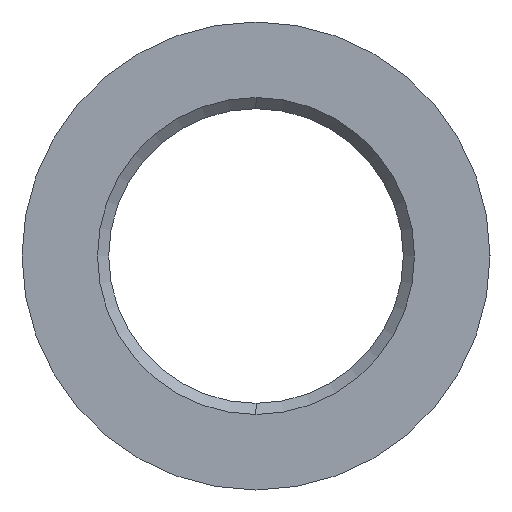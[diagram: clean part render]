
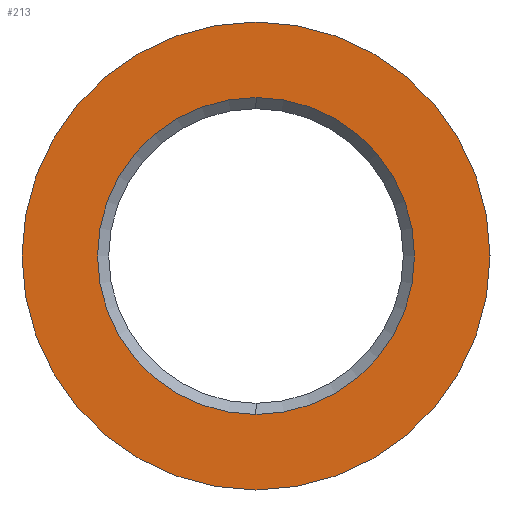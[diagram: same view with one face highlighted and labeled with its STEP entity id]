
A CAD part, left-side view. The second image highlights one B-rep face of the part: STEP entity #213.
In plain terms, the highlighted planar face has unit normal (-1, 0, 0).
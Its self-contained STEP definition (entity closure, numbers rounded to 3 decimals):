
#7 = VERTEX_POINT ( 'NONE', #470 ) ;
#153 = ORIENTED_EDGE ( 'NONE', *, *, #282, .T. ) ;
#154 = ORIENTED_EDGE ( 'NONE', *, *, #155, .T. ) ;
#155 = EDGE_CURVE ( 'NONE', #164, #7, #736, .T. ) ;
#156 = EDGE_LOOP ( 'NONE', ( #215, #216 ) ) ;
#164 = VERTEX_POINT ( 'NONE', #1054 ) ;
#212 = EDGE_CURVE ( 'NONE', #295, #239, #1095, .T. ) ;
#213 = ADVANCED_FACE ( 'NONE', ( #1090, #1089 ), #1088, .F. ) ;
#214 = EDGE_LOOP ( 'NONE', ( #153, #154 ) ) ;
#215 = ORIENTED_EDGE ( 'NONE', *, *, #212, .F. ) ;
#216 = ORIENTED_EDGE ( 'NONE', *, *, #241, .F. ) ;
#239 = VERTEX_POINT ( 'NONE', #1031 ) ;
#241 = EDGE_CURVE ( 'NONE', #239, #295, #1029, .T. ) ;
#282 = EDGE_CURVE ( 'NONE', #7, #164, #959, .T. ) ;
#295 = VERTEX_POINT ( 'NONE', #1188 ) ;
#470 = CARTESIAN_POINT ( 'NONE',  ( 0., 0., 4.25 ) ) ;
#736 = CIRCLE ( 'NONE', #1138, 4.25 ) ;
#950 = DIRECTION ( 'NONE',  ( 0., 0., -1. ) ) ;
#951 = DIRECTION ( 'NONE',  ( 1., 0., 0. ) ) ;
#952 = CARTESIAN_POINT ( 'NONE',  ( 0., 0., 0. ) ) ;
#953 = AXIS2_PLACEMENT_3D ( 'NONE', #952, #951, #950 ) ;
#959 = CIRCLE ( 'NONE', #953, 4.25 ) ;
#1025 = DIRECTION ( 'NONE',  ( 0., 0., -1. ) ) ;
#1026 = DIRECTION ( 'NONE',  ( 1., 0., 0. ) ) ;
#1027 = CARTESIAN_POINT ( 'NONE',  ( 0., 0., 0. ) ) ;
#1028 = AXIS2_PLACEMENT_3D ( 'NONE', #1027, #1026, #1025 ) ;
#1029 = CIRCLE ( 'NONE', #1028, 6.275 ) ;
#1031 = CARTESIAN_POINT ( 'NONE',  ( 0., 0., -6.275 ) ) ;
#1054 = CARTESIAN_POINT ( 'NONE',  ( 0., 0., -4.25 ) ) ;
#1072 = DIRECTION ( 'NONE',  ( 0., 0., -1. ) ) ;
#1073 = DIRECTION ( 'NONE',  ( 1., 0., 0. ) ) ;
#1083 = DIRECTION ( 'NONE',  ( 0., 0., -1. ) ) ;
#1084 = DIRECTION ( 'NONE',  ( 1., 0., 0. ) ) ;
#1085 = AXIS2_PLACEMENT_3D ( 'NONE', #1087, #1084, #1083 ) ;
#1087 = CARTESIAN_POINT ( 'NONE',  ( 0., 0., 0. ) ) ;
#1088 = PLANE ( 'NONE',  #1085 ) ;
#1089 = FACE_OUTER_BOUND ( 'NONE', #156, .T. ) ;
#1090 = FACE_BOUND ( 'NONE', #214, .T. ) ;
#1091 = DIRECTION ( 'NONE',  ( 0., 0., -1. ) ) ;
#1092 = DIRECTION ( 'NONE',  ( 1., 0., 0. ) ) ;
#1093 = CARTESIAN_POINT ( 'NONE',  ( 0., 0., 0. ) ) ;
#1094 = AXIS2_PLACEMENT_3D ( 'NONE', #1093, #1092, #1091 ) ;
#1095 = CIRCLE ( 'NONE', #1094, 6.275 ) ;
#1137 = CARTESIAN_POINT ( 'NONE',  ( 0., 0., 0. ) ) ;
#1138 = AXIS2_PLACEMENT_3D ( 'NONE', #1137, #1073, #1072 ) ;
#1188 = CARTESIAN_POINT ( 'NONE',  ( 0., 0., 6.275 ) ) ;
